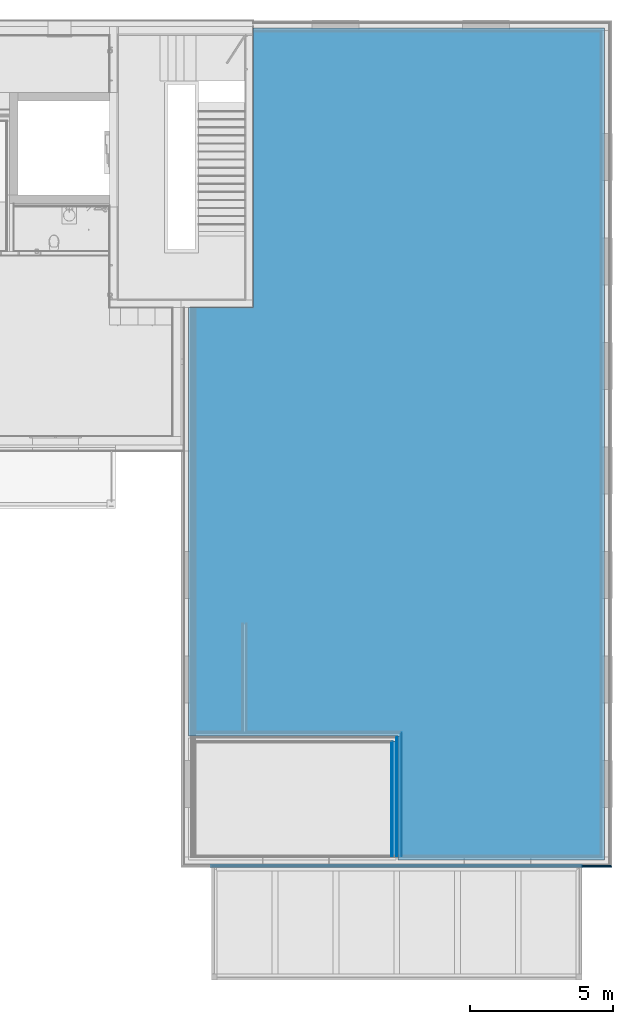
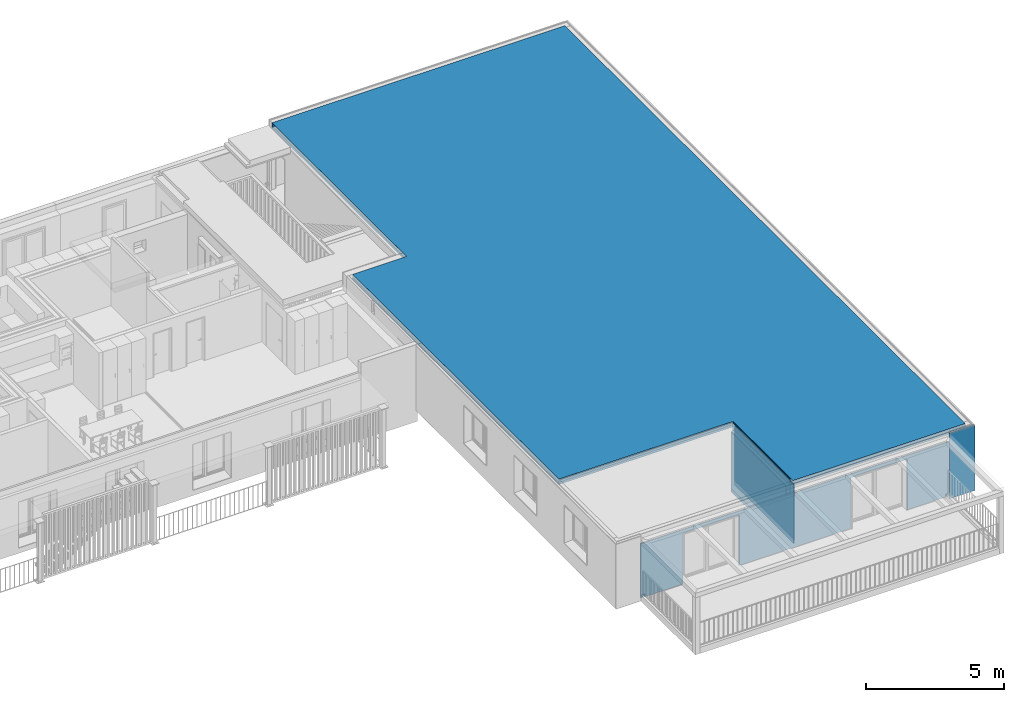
# One storey, part 15 of 34: 18 building element parts, 2 openings, 5 elements without a shape of their own.
"""IFC4 building model written with IfcOpenShell, lengths in millimetres."""

from ifc_helpers import new_model, entity, si_unit, converted_unit, derived_unit, direction, frame, origin_with_axes, place, context, subcontext, project, spatial, polygons, material, type_object, element, aggregate, save


model = new_model("IFC4")

# Units and contexts
model_context = context("Model", 3, precision=0.01, world=origin_with_axes(), true_north=direction((0.0, 1.0)))
body_context = subcontext(model_context, "Body", "Model", "MODEL_VIEW")
ifc_project = project(units=[si_unit("LENGTHUNIT", "METRE", prefix="MILLI"), si_unit("AREAUNIT", "SQUARE_METRE"), si_unit("VOLUMEUNIT", "CUBIC_METRE"), converted_unit("PLANEANGLEUNIT", "DEGREE", entity("IfcPlaneAngleMeasure", 0.0174532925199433), si_unit("PLANEANGLEUNIT", "RADIAN"), dimensions=[0, 0, 0, 0, 0, 0, 0]), converted_unit("TIMEUNIT", "Year", entity("IfcTimeMeasure", 31557600.0), si_unit("TIMEUNIT", "SECOND"), dimensions=[0, 0, 1, 0, 0, 0, 0]), si_unit("MASSUNIT", "GRAM", prefix="KILO"), si_unit("THERMODYNAMICTEMPERATUREUNIT", "DEGREE_CELSIUS"), si_unit("LUMINOUSINTENSITYUNIT", "LUMEN"), si_unit("ENERGYUNIT", "JOULE", prefix="MEGA"), derived_unit("THERMALCONDUCTANCEUNIT", [(si_unit("POWERUNIT", "WATT"), 1), (si_unit("LENGTHUNIT", "METRE"), -1), (si_unit("THERMODYNAMICTEMPERATUREUNIT", "KELVIN"), -1)]), derived_unit("SPECIFICHEATCAPACITYUNIT", [(si_unit("ENERGYUNIT", "JOULE"), 1), (si_unit("MASSUNIT", "GRAM", prefix="KILO"), -1), (si_unit("THERMODYNAMICTEMPERATUREUNIT", "KELVIN"), -1)]), derived_unit("MASSDENSITYUNIT", [(si_unit("MASSUNIT", "GRAM", prefix="KILO"), 1), (si_unit("VOLUMEUNIT", "CUBIC_METRE"), -1)])], contexts=[model_context])

# Site, building, storey
site_placement = place(None, origin_with_axes())
site = spatial("IfcSite", under=ifc_project, at=site_placement, Name="Gelände", CompositionType="ELEMENT")
building_placement = place(site_placement, origin_with_axes())
building = spatial("IfcBuilding", under=site, at=building_placement, Name="Gebäude", CompositionType="ELEMENT")
storey_placement = place(building_placement, frame((0.0, 0.0, 5799.999999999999), z_axis=(0.0, 0.0, 1.0), x_axis=(1.0, 0.0, 0.0)))
storey = spatial("IfcBuildingStorey", under=building, at=storey_placement, Name="2.OG", CompositionType="ELEMENT", Elevation=5800.0)

# Wall, building element parts
wall_type = type_object("IfcWallType", Name="Trennwand Typ 01 186", PredefinedType="NOTDEFINED")
wall_1_placement = place(storey_placement, frame((25242.99744456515, 8826.597281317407, 500.0), z_axis=(0.0, 0.0, 1.0), x_axis=(0.0, 1.0, 0.0)))
wall_1 = element("IfcWall", 1, at=wall_1_placement, inside=storey, type_object=wall_type, Name="Wand-014", PredefinedType="NOTDEFINED")
ifc_material_1 = material(Name="Gipskartonplatte GKP")
building_element_part_1_placement = place(wall_1_placement, origin_with_axes())
building_element_part_1 = element("IfcBuildingElementPart", 2, at=building_element_part_1_placement, material=ifc_material_1, Name="Gipskartonplatte GKP", PredefinedType="NOTDEFINED", context=body_context, shape_type="Tessellation", body=[
    polygons([(3972.000000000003, -10.00000000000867, 2643.999948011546), (3972.000000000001, -28.0000000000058, 2643.999948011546), (3972.000000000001, -28.0000000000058, 0.0), (3972.000000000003, -10.00000000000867, 0.0), (0.0, -27.99999999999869, 2643.999948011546), (0.0, -10.00000000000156, 2643.999948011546), (0.0, -27.99999999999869, 0.0), (0.0, -10.00000000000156, 0.0)], [[[1, 2, 3, 4]], [[5, 2, 1, 6]], [[2, 5, 7, 3]], [[4, 3, 7, 8]], [[6, 1, 4, 8]], [[5, 6, 8, 7]]], closed=True),
])
ifc_material_2 = material(Name="Kalkzementputz Aussen")
building_element_part_2_placement = place(wall_1_placement, origin_with_axes())
building_element_part_2 = element("IfcBuildingElementPart", 3, at=building_element_part_2_placement, material=ifc_material_2, Name="Kalkzementputz Aussen", PredefinedType="NOTDEFINED", context=body_context, shape_type="Tessellation", body=[
    polygons([(3962.000000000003, 0.0, 2643.999948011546), (3962.000000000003, -10.00000000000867, 2643.999948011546), (3962.000000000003, -10.00000000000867, 150.0000000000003), (3962.000000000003, 0.0, 150.0000000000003), (0.0, -10.00000000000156, 2643.999948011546), (0.0, 0.0, 2643.999948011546), (0.0, -10.00000000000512, 150.0000000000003), (0.0, 0.0, 150.0000000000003)], [[[1, 2, 3, 4]], [[5, 2, 1, 6]], [[2, 5, 7, 3]], [[4, 3, 7, 8]], [[6, 1, 4, 8]], [[5, 6, 8, 7]]], closed=True),
])
ifc_material_3 = material(Name="Gipsfaserplatte GFP")
building_element_part_3_placement = place(wall_1_placement, origin_with_axes())
building_element_part_3 = element("IfcBuildingElementPart", 4, at=building_element_part_3_placement, material=ifc_material_3, Name="Gipsfaserplatte GFP", PredefinedType="NOTDEFINED", context=body_context, shape_type="Tessellation", body=[
    polygons([(3990.000000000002, -28.0000000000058, 2643.999948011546), (3990.000000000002, -46.00000000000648, 2643.999948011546), (3990.000000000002, -46.00000000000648, 0.0), (3990.000000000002, -28.0000000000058, 0.0), (0.0, -45.99999999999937, 2643.999948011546), (0.0, -27.99999999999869, 2643.999948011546), (0.0, -45.99999999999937, 0.0), (0.0, -27.99999999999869, 0.0)], [[[1, 2, 3, 4]], [[5, 2, 1, 6]], [[2, 5, 7, 3]], [[4, 3, 7, 8]], [[6, 1, 4, 8]], [[5, 6, 8, 7]]], closed=True),
])
ifc_material_4 = material(Name="Ständer Konstruktion gedämmt")
building_element_part_4_placement = place(wall_1_placement, origin_with_axes())
building_element_part_4 = element("IfcBuildingElementPart", 5, at=building_element_part_4_placement, material=ifc_material_4, Name="Ständer Konstruktion gedämmt", PredefinedType="NOTDEFINED", context=body_context, shape_type="Tessellation", body=[
    polygons([(4008.000000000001, -46.00000000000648, 2643.999948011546), (4008.000000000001, -165.9999999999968, 2643.999948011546), (4008.000000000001, -166.0000000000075, 0.0), (4008.000000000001, -46.00000000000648, 0.0), (0.0, -165.9999999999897, 2643.999948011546), (0.0, -45.99999999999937, 2643.999948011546), (0.0, -166.0000000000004, 0.0), (0.0, -45.99999999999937, 0.0)], [[[1, 2, 3, 4]], [[5, 2, 1, 6]], [[2, 5, 7, 3]], [[4, 3, 7, 8]], [[6, 1, 4, 8]], [[5, 6, 8, 7]]], closed=True),
])
ifc_material_5 = material(Name="Dämmung Innen")
building_element_part_5_placement = place(wall_1_placement, origin_with_axes())
building_element_part_5 = element("IfcBuildingElementPart", 6, at=building_element_part_5_placement, material=ifc_material_5, Name="Dämmung Innen", PredefinedType="NOTDEFINED", context=body_context, shape_type="Tessellation", body=[
    polygons([(0.0, -185.9999999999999, 150.0000000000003), (4128.000000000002, -186.0000000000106, 150.0000000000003), (4128.000000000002, -186.0000000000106, 2900.0), (0.0, -185.9999999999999, 2900.0), (4128.000000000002, -166.000000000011, 150.0000000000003), (0.0, -166.0000000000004, 150.0000000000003), (4128.000000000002, -166.000000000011, 2900.0), (0.0, -166.0000000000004, 2900.0)], [[[1, 2, 3, 4]], [[5, 2, 1, 6]], [[2, 5, 7, 3]], [[3, 7, 8, 4]], [[6, 1, 4, 8]], [[5, 6, 8, 7]]], closed=True),
])
aggregate(wall_1, [building_element_part_1, building_element_part_2, building_element_part_3, building_element_part_4, building_element_part_5])

# Curtain wall, building element parts
curtain_wall_type = type_object("IfcCurtainWallType", Name="Fassade Typ 02 - Vertikale Schalung 71", PredefinedType="NOTDEFINED")
curtain_wall_1_placement = place(storey_placement, frame((32928.99744477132, 8447.597281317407, 500.0000000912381), z_axis=(0.0, 0.0, 1.0), x_axis=(-1.0, 0.0, 0.0)))
curtain_wall_1 = element("IfcCurtainWall", 7, at=curtain_wall_1_placement, inside=storey, type_object=curtain_wall_type, Name="Wand-014", PredefinedType="NOTDEFINED")
ifc_material_6 = material(Name="Lattenrost horizontal")
building_element_part_6_placement = place(curtain_wall_1_placement, origin_with_axes())
building_element_part_6 = element("IfcBuildingElementPart", 8, at=building_element_part_6_placement, material=ifc_material_6, Name="Lattenrost horizontal", PredefinedType="NOTDEFINED", context=body_context, shape_type="Tessellation", body=[
    polygons([(46.00000163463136, -46.0000000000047, 7.21799754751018), (21.0000000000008, -45.99999999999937, 4.750067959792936), (21.0000000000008, -45.99999999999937, 0.0), (1046.000025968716, -45.99999999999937, 0.0), (1046.000025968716, -45.99999999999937, 7.217997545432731), (21.00000081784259, -20.999999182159, 4.750068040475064), (21.0000000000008, -21.0000000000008, 0.0), (1046.000025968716, -21.0000000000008, 0.0), (1046.000025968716, -21.0000000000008, 4.75006811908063)], [[[1, 2, 3, 4, 5]], [[6, 2, 1]], [[2, 6, 7, 3]], [[7, 8, 4, 3]], [[9, 5, 4, 8]], [[6, 1, 5, 9]], [[6, 9, 8, 7]]], closed=True),
    polygons([(21.00000081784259, -20.999999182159, 7.665565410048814), (21.0000000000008, -45.99999999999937, 7.665565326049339), (21.0000000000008, -45.99999999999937, 2899.99999990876), (21.0000000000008, -20.99999999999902, 2899.99999990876), (46.00000163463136, -46.00000000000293, 10.23497077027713), (1046.000025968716, -45.99999999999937, 10.23497076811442), (1046.000025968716, -45.99999999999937, 2899.99999990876), (1046.000025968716, -20.99999999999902, 2899.99999990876), (1046.000025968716, -21.0000000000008, 7.665565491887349)], [[[1, 2, 3, 4]], [[5, 2, 1]], [[2, 5, 6, 7, 3]], [[3, 7, 8, 4]], [[9, 1, 4, 8]], [[5, 1, 9, 6]], [[6, 9, 8, 7]]], closed=True),
])
ifc_material_7 = material(Name="Falzschalung vertikal")
building_element_part_7_placement = place(curtain_wall_1_placement, origin_with_axes())
building_element_part_7 = element("IfcBuildingElementPart", 9, at=building_element_part_7_placement, material=ifc_material_7, Name="Falzschalung vertikal", PredefinedType="NOTDEFINED", context=body_context, shape_type="Tessellation", body=[
    polygons([(21.00000163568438, -21.00000000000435, 4.750068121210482), (0.0, -21.0000000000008, 2.677007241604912), (0.0, -21.0000000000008, 0.0), (1046.000025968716, -21.0000000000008, 0.0), (1046.000025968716, -21.0000000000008, 4.75006811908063), (8.182823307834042e-07, 8.182823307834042e-07, 2.677007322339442), (0.0, 0.0, 0.0), (1046.000025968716, 0.0, 0.0), (1046.000025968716, 0.0, 2.677007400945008)], [[[1, 2, 3, 4, 5]], [[6, 2, 1]], [[2, 6, 7, 3]], [[7, 8, 4, 3]], [[9, 5, 4, 8]], [[6, 1, 5, 9]], [[6, 9, 8, 7]]], closed=True),
    polygons([(8.182823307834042e-07, 8.182841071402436e-07, 5.507264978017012), (0.0, -21.0000000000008, 5.507264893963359), (0.0, -20.99999999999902, 2899.99999990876), (0.0, 0.0, 2899.99999990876), (21.00000163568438, -21.00000000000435, 7.665565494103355), (1046.000025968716, -21.0000000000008, 7.665565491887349), (1046.000025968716, -20.99999999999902, 2899.99999990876), (1046.000025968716, 0.0, 2899.99999990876), (1046.000025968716, 0.0, 5.507265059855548)], [[[1, 2, 3, 4]], [[5, 2, 1]], [[2, 5, 6, 7, 3]], [[3, 7, 8, 4]], [[9, 1, 4, 8]], [[5, 1, 9, 6]], [[6, 9, 8, 7]]], closed=True),
])
ifc_material_8 = material(Name="Lattenrost vertikal")
building_element_part_8_placement = place(curtain_wall_1_placement, origin_with_axes())
building_element_part_8 = element("IfcBuildingElementPart", 10, at=building_element_part_8_placement, material=ifc_material_8, Name="Lattenrost vertikal", PredefinedType="NOTDEFINED", context=body_context, shape_type="Tessellation", body=[
    polygons([(71.0000014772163, -70.99999984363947, 9.685926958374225), (45.99999999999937, -70.99999999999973, 7.217997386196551), (45.99999999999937, -70.99999999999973, 0.0), (1046.000025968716, -70.99999999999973, 0.0), (1046.000025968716, -70.99999986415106, 9.685926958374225), (46.00000081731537, -45.99999918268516, 7.217997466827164), (45.99999999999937, -45.99999999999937, 0.0), (1046.000025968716, -45.99999999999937, 0.0), (1046.000025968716, -45.99999999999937, 7.217997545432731)], [[[1, 2, 3, 4, 5]], [[6, 2, 1]], [[2, 6, 7, 3]], [[7, 8, 4, 3]], [[9, 5, 4, 8]], [[6, 1, 5, 9]], [[6, 9, 8, 7]]], closed=True),
    polygons([(46.00000081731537, -45.99999918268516, 10.23497068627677), (45.99999999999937, -70.99999999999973, 10.23497060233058), (45.99999999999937, -70.99999999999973, 2899.99999990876), (45.99999999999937, -45.99999999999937, 2899.99999990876), (68.30000031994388, -70.99999999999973, 12.52688014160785), (68.30000032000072, -68.2999986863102, 12.52688014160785), (68.30000031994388, -70.99999999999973, 42.69563016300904), (71.0000014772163, -70.99999984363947, 42.69563016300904), (1046.000025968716, -70.99999986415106, 42.69563016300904), (1046.000025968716, -70.99999999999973, 2899.99999990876), (1046.000025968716, -45.99999999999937, 2899.99999990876), (1046.000025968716, -45.99999999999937, 10.23497076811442), (1046.000025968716, -68.29999870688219, 12.52688014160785), (68.30000032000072, -68.2999986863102, 42.69563016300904), (1046.000025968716, -68.29999870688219, 42.69563016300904)], [[[1, 2, 3, 4]], [[5, 2, 1, 6]], [[7, 8, 9, 10, 3, 2, 5]], [[3, 10, 11, 4]], [[12, 1, 4, 11]], [[6, 1, 12, 13]], [[7, 5, 6, 14]], [[8, 7, 14, 15, 9]], [[13, 12, 11, 10, 9, 15]], [[14, 6, 13, 15]]], closed=True),
])
aggregate(curtain_wall_1, [building_element_part_6, building_element_part_7, building_element_part_8])

# Curtain wall, openings, building element parts
curtain_wall_2_placement = place(storey_placement, frame((31882.9974188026, 8447.597281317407, 620.0000000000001), z_axis=(0.0, 0.0, 1.0), x_axis=(-1.0, 0.0, 0.0)))
curtain_wall_2 = element("IfcCurtainWall", 11, at=curtain_wall_2_placement, inside=storey, type_object=curtain_wall_type, Name="Wand-014", PredefinedType="NOTDEFINED")
opening_1_placement = place(curtain_wall_2_placement, frame((9967.33330736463, 0.0, 0.0), z_axis=(0.0, 0.0, 1.0), x_axis=(1.0, 0.0, 0.0)))
element("IfcOpeningElement", 12, at=opening_1_placement, cuts=curtain_wall_2, Name="Fenster-004", context=body_context, identifier="Reference", shape_type="Tessellation", body=[
    polygons([(1166.000000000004, 1.000000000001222, 2241.0), (1166.000000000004, 1.000000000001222, 0.0), (-1166.000000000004, 1.000000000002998, 0.0), (-1166.000000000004, 1.000000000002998, 2241.0), (1166.000000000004, -72.00000000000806, 2241.0), (1166.000000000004, -72.00000000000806, 0.0), (-1166.000000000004, -72.00000000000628, 0.0), (-1166.000000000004, -72.00000000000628, 2241.0)], [[[1, 2, 3, 4]], [[5, 6, 2, 1]], [[6, 7, 3, 2]], [[7, 8, 4, 3]], [[8, 5, 1, 4]], [[7, 6, 5, 8]]], closed=True),
])
opening_2_placement = place(curtain_wall_2_placement, frame((2940.666641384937, 0.0, 0.0), z_axis=(0.0, 0.0, 1.0), x_axis=(1.0, 0.0, 0.0)))
element("IfcOpeningElement", 13, at=opening_2_placement, cuts=curtain_wall_2, Name="Fenster-004", context=body_context, identifier="Reference", shape_type="Tessellation", body=[
    polygons([(1166.0, 1.000000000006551, 2241.0), (1166.0, 1.000000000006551, 0.0), (-1166.0, 1.000000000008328, 0.0), (-1166.0, 1.000000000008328, 2241.0), (1166.0, -72.00000000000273, 2241.0), (1166.0, -72.00000000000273, 0.0), (-1166.0, -72.00000000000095, 0.0), (-1166.0, -72.00000000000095, 2241.0)], [[[1, 2, 3, 4]], [[5, 6, 2, 1]], [[6, 7, 3, 2]], [[7, 8, 4, 3]], [[8, 5, 1, 4]], [[7, 6, 5, 8]]], closed=True),
])
building_element_part_9_placement = place(curtain_wall_2_placement, origin_with_axes())
building_element_part_9 = element("IfcBuildingElementPart", 14, at=building_element_part_9_placement, material=ifc_material_6, Name="Lattenrost horizontal", PredefinedType="NOTDEFINED", context=body_context, shape_type="Tessellation", body=[
    polygons([(4106.666641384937, -46.00000000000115, 2241.0), (4106.666641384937, -46.00000000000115, 0.09999999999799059), (4106.666641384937, -45.99999999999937, 0.0), (8801.33330736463, -46.00000000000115, 0.0), (8801.333307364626, -46.00000000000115, 0.09999999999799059), (8801.333307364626, -46.00000000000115, 2241.0), (11133.33330736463, -46.00000000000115, 2241.0), (11133.33330736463, -46.00000000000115, 0.09999999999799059), (11133.33330736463, -46.00000000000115, 0.0), (12744.74416868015, -46.00000000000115, 0.0), (12744.74416868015, -46.00000000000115, 127.7534740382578), (12794.2546957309, -46.00000000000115, 132.641013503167), (12794.2546957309, -46.00000000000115, 0.0), (12907.99994874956, -46.00000000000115, 0.0), (12907.99994874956, -46.00000000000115, 2399.999895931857), (0.0, -45.99999999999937, 2399.999895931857), (0.0, -45.99999999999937, 0.0), (113.7452535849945, -45.99999999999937, 0.0), (113.7452535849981, -46.00000000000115, 132.6410134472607), (163.255780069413, -45.99999999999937, 127.7534740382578), (163.255780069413, -45.99999999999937, 0.0), (1774.666641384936, -45.99999999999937, 0.0), (1774.666641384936, -45.99999999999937, 0.09999999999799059), (1774.666641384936, -46.00000000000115, 2241.0), (165.4522595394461, -45.99999999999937, 129.5463650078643), (113.7452535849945, -46.00000000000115, 134.6507349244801), (113.7452535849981, -46.00000000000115, 136.8557791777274), (167.5570486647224, -45.99999999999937, 131.3114366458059), (167.5570085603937, -45.99999999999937, 99.99999966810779), (165.4522595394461, -45.99999999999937, 99.99999966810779), (12742.54768921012, -46.00000000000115, 99.99999966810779), (12740.44294018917, -46.00000000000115, 99.99999966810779), (12740.44290008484, -46.00000000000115, 131.3114366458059), (12794.2546957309, -46.00000000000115, 136.8557792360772), (12794.2546957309, -46.00000000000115, 134.6507349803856), (12742.54768921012, -46.00000000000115, 129.5463650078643), (4106.666641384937, -21.0000000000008, 2241.0), (4106.666641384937, -21.0000000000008, 0.09999999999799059), (4106.666641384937, -21.0000000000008, 0.0), (8801.33330736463, -21.0000000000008, 0.0), (8801.333307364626, -21.0000000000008, 0.09999999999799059), (8801.333307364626, -21.0000000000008, 2241.0), (11133.33330736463, -21.0000000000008, 2241.0), (11133.33330736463, -21.0000000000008, 0.09999999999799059), (11133.33330736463, -21.0000000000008, 0.0), (12744.74416868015, -21.0000000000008, 0.0), (12744.74416868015, -21.0000000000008, 127.7534740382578), (12848.06649137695, -21.0000000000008, 137.9531620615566), (12848.06649137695, -21.0000000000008, 0.0), (12907.99994874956, -21.0000000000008, 0.0), (12907.99994874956, -21.0000000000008, 2399.999895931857), (0.0, -20.99999999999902, 2399.999895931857), (0.0, -21.0000000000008, 0.0), (59.93345794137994, -21.0000000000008, 0.0), (59.93345794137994, -21.0000000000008, 137.9531620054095), (163.255780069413, -21.0000000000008, 127.7534740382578), (163.255780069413, -21.0000000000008, 0.0), (1774.666641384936, -21.0000000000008, 0.0), (1774.666641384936, -21.0000000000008, 0.09999999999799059), (1774.666641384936, -21.0000000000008, 2241.0), (165.4522595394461, -21.0000000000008, 129.5463650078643), (59.93345794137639, -21.0000000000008, 139.9628837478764), (59.93345794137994, -21.0000000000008, 142.4001217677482), (167.5570486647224, -21.0000000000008, 131.3114366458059), (167.5570085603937, -21.0000000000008, 99.99999966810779), (165.4522595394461, -21.0000000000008, 99.99999966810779), (12742.54768921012, -21.0000000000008, 99.99999966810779), (12740.44294018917, -21.0000000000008, 99.99999966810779), (12740.44290008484, -21.0000000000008, 131.3114366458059), (12848.06649137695, -21.0000000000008, 142.4001218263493), (12848.06649137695, -21.0000000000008, 139.9628838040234), (12742.54768921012, -21.0000000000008, 129.5463650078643)], [[[1, 2, 3, 4, 5, 6, 7, 8, 9, 10, 11, 12, 13, 14, 15, 16, 17, 18, 19, 20, 21, 22, 23, 24], [25, 26, 27, 28, 29, 30], [31, 32, 33, 34, 35, 36]], [[2, 1, 37, 38]], [[2, 38, 39, 3]], [[4, 3, 39, 40]], [[5, 4, 40, 41]], [[5, 41, 42, 6]], [[6, 42, 43, 7]], [[7, 43, 44, 8]], [[44, 45, 9, 8]], [[9, 45, 46, 10]], [[46, 47, 11, 10]], [[47, 48, 12, 11]], [[48, 49, 13, 12]], [[50, 14, 13, 49]], [[15, 14, 50, 51]], [[15, 51, 52, 16]], [[16, 52, 53, 17]], [[17, 53, 54, 18]], [[19, 18, 54, 55]], [[20, 19, 55, 56]], [[56, 57, 21, 20]], [[58, 22, 21, 57]], [[59, 23, 22, 58]], [[24, 23, 59, 60]], [[1, 24, 60, 37]], [[26, 25, 61, 62]], [[27, 26, 62, 63]], [[28, 27, 63, 64]], [[64, 65, 29, 28]], [[65, 66, 30, 29]], [[66, 61, 25, 30]], [[67, 68, 32, 31]], [[68, 69, 33, 32]], [[69, 70, 34, 33]], [[70, 71, 35, 34]], [[71, 72, 36, 35]], [[72, 67, 31, 36]], [[60, 59, 58, 57, 56, 55, 54, 53, 52, 51, 50, 49, 48, 47, 46, 45, 44, 43, 42, 41, 40, 39, 38, 37], [65, 64, 63, 62, 61, 66], [71, 70, 69, 68, 67, 72]]], closed=True),
])
building_element_part_10_placement = place(curtain_wall_2_placement, origin_with_axes())
building_element_part_10 = element("IfcBuildingElementPart", 15, at=building_element_part_10_placement, material=ifc_material_8, Name="Lattenrost vertikal", PredefinedType="NOTDEFINED", context=body_context, shape_type="Tessellation", body=[
    polygons([(4106.666641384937, -70.99999999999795, 2241.0), (4106.666641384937, -70.99999999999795, 0.09999999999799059), (4106.666641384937, -70.99999999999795, 0.0), (8801.33330736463, -70.99999999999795, 0.0), (8801.333307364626, -70.99999999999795, 0.09999999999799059), (8801.333307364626, -70.99999999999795, 2241.0), (11133.33330736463, -70.99999999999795, 2241.0), (11133.33330736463, -71.0000000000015, 0.09999999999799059), (11133.33330736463, -71.0000000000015, 0.0), (12907.99994874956, -71.0000000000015, 0.0), (12907.99994874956, -71.0000000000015, 2399.999895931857), (0.0, -70.99999999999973, 2399.999895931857), (0.0, -70.99999999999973, 0.0), (1774.666641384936, -70.99999999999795, 0.0), (1774.666641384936, -70.99999999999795, 0.09999999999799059), (1774.666641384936, -70.99999999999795, 2241.0), (4106.666641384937, -46.00000000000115, 2241.0), (4106.666641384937, -46.00000000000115, 0.09999999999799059), (4106.666641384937, -45.99999999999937, 0.0), (8801.33330736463, -46.00000000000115, 0.0), (8801.333307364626, -46.00000000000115, 0.09999999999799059), (8801.333307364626, -46.00000000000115, 2241.0), (11133.33330736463, -46.00000000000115, 2241.0), (11133.33330736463, -46.00000000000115, 0.09999999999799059), (11133.33330736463, -46.00000000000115, 0.0), (12794.2546957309, -46.00000000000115, 0.0), (12907.99994874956, -46.00000000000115, 0.0), (12744.74416868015, -46.00000000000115, 0.0), (12744.74416868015, -69.00170736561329, 0.0), (12907.99994874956, -46.00000000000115, 2399.999895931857), (0.0, -45.99999999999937, 2399.999895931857), (0.0, -45.99999999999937, 0.0), (163.255780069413, -45.99999999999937, 0.0), (1774.666641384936, -45.99999999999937, 0.0), (113.7452535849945, -45.99999999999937, 0.0), (163.255780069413, -69.00170710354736, 0.0), (1774.666641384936, -45.99999999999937, 0.09999999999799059), (1774.666641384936, -46.00000000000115, 2241.0), (163.255780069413, -45.99999999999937, 127.7534740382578), (113.7452535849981, -46.00000000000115, 132.6410134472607), (12794.2546957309, -46.00000000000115, 132.641013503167), (12744.74416868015, -46.00000000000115, 127.7534740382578), (167.5570085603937, -45.99999999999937, 99.99999966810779), (167.5570486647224, -45.99999999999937, 131.3114366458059), (113.7452535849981, -46.00000000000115, 136.8557791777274), (113.7452535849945, -46.00000000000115, 134.6507349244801), (165.4522595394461, -45.99999999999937, 129.5463650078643), (165.4522595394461, -45.99999999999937, 99.99999966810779), (12794.2546957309, -46.00000000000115, 134.6507349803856), (12794.2546957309, -46.00000000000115, 136.8557792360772), (12740.44290008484, -46.00000000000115, 131.3114366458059), (12740.44294018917, -46.00000000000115, 99.99999966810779), (12742.54768921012, -46.00000000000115, 99.99999966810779), (12742.54768921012, -46.00000000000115, 129.5463650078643), (12744.74416868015, -69.00170736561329, 127.7534740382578), (163.255780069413, -69.00170710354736, 127.7534740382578), (167.5570085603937, -70.99998110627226, 99.99999966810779), (167.5570486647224, -70.99999973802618, 131.3114366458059), (165.4522595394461, -70.02215226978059, 99.99999966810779), (165.4522595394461, -70.02215226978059, 129.5463650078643), (12742.54768921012, -70.02215253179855, 129.5463650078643), (12742.54768921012, -70.02215253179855, 99.99999966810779), (12740.44294018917, -70.99998136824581, 99.99999966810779), (12740.44290008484, -71.0000000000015, 131.3114366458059)], [[[1, 2, 3, 4, 5, 6, 7, 8, 9, 10, 11, 12, 13, 14, 15, 16]], [[2, 1, 17, 18]], [[2, 18, 19, 3]], [[4, 3, 19, 20]], [[5, 4, 20, 21]], [[5, 21, 22, 6]], [[6, 22, 23, 7]], [[7, 23, 24, 8]], [[24, 25, 9, 8]], [[26, 27, 10, 9, 25, 28, 29]], [[11, 10, 27, 30]], [[11, 30, 31, 12]], [[12, 31, 32, 13]], [[33, 34, 14, 13, 32, 35, 36]], [[37, 15, 14, 34]], [[16, 15, 37, 38]], [[1, 16, 38, 17]], [[38, 37, 34, 33, 39, 40, 35, 32, 31, 30, 27, 26, 41, 42, 28, 25, 24, 23, 22, 21, 20, 19, 18, 17], [43, 44, 45, 46, 47, 48], [49, 50, 51, 52, 53, 54]], [[42, 55, 29, 28]], [[55, 41, 26, 29]], [[56, 36, 35, 40]], [[56, 39, 33, 36]], [[40, 39, 56]], [[42, 41, 55]], [[57, 58, 44, 43]], [[45, 44, 58]], [[46, 45, 58, 57, 59, 60]], [[47, 46, 60]], [[60, 59, 48, 47]], [[59, 57, 43, 48]], [[50, 49, 61, 62, 63, 64]], [[51, 50, 64]], [[64, 63, 52, 51]], [[63, 62, 53, 52]], [[62, 61, 54, 53]], [[49, 54, 61]]], closed=True),
])
aggregate(curtain_wall_2, [building_element_part_9, building_element_part_10])

# Slab, building element parts
slab_type = type_object("IfcSlabType", Name="Geschossdecke Typ 01 256", PredefinedType="NOTDEFINED")
slab_placement = place(storey_placement, frame((32679.99744477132, 8696.597281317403, 3399.999948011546), z_axis=(0.0, 0.0, 1.0), x_axis=(1.0, 0.0, 0.0)))
slab = element("IfcSlab", 16, at=slab_placement, inside=storey, type_object=slab_type, Name="Deckennr.-073", PredefinedType="NOTDEFINED")
ifc_material_9 = material(Name="Balken Konstruktion ungedämmt")
building_element_part_11_placement = place(slab_placement, origin_with_axes())
building_element_part_11 = element("IfcBuildingElementPart", 17, at=building_element_part_11_placement, material=ifc_material_9, Name="Balken Konstruktion ungedämmt", PredefinedType="NOTDEFINED", context=body_context, shape_type="Tessellation", body=[
    polygons([(0.0, 0.0, -137.9999999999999), (0.0, 29002.00000000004, -137.9999999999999), (0.0, 29002.00000000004, -18.00000000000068), (0.0, 0.0, -18.00000000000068), (-7211.000000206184, 0.0, -137.9999999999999), (-7211.000000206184, 4318.000000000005, -137.9999999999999), (-14502.00000000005, 4318.000000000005, -137.9999999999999), (-14502.00000000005, 19251.00000000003, -137.9999999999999), (-12251.00000000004, 19251.00000000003, -137.9999999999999), (-12251.00000000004, 29002.00000000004, -137.9999999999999), (-12251.00000000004, 29002.00000000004, -18.00000000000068), (-7211.000000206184, 0.0, -18.00000000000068), (-12251.00000000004, 19251.00000000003, -18.00000000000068), (-14502.00000000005, 19251.00000000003, -18.00000000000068), (-14502.00000000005, 4318.000000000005, -18.00000000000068), (-7211.000000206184, 4318.000000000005, -18.00000000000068)], [[[1, 2, 3, 4]], [[2, 1, 5, 6, 7, 8, 9, 10]], [[2, 10, 11, 3]], [[12, 4, 3, 11, 13, 14, 15, 16]], [[5, 1, 4, 12]], [[6, 5, 12, 16]], [[7, 6, 16, 15]], [[8, 7, 15, 14]], [[9, 8, 14, 13]], [[10, 9, 13, 11]]], closed=True),
])
ifc_material_10 = material(Name="Balken Konstruktion gedämmt")
building_element_part_12_placement = place(slab_placement, origin_with_axes())
building_element_part_12 = element("IfcBuildingElementPart", 18, at=building_element_part_12_placement, material=ifc_material_10, Name="Balken Konstruktion gedämmt", PredefinedType="NOTDEFINED", context=body_context, shape_type="Tessellation", body=[
    polygons([(0.0, 0.0, -237.9999999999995), (0.0, 29002.00000000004, -237.9999999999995), (0.0, 29002.00000000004, -137.9999999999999), (0.0, 0.0, -137.9999999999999), (-7211.000000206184, 0.0, -237.9999999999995), (-7211.000000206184, 4318.000000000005, -237.9999999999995), (-14502.00000000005, 4318.000000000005, -237.9999999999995), (-14502.00000000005, 19251.00000000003, -237.9999999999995), (-12251.00000000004, 19251.00000000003, -237.9999999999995), (-12251.00000000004, 29002.00000000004, -237.9999999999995), (-12251.00000000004, 29002.00000000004, -137.9999999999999), (-7211.000000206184, 0.0, -137.9999999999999), (-12251.00000000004, 19251.00000000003, -137.9999999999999), (-14502.00000000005, 19251.00000000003, -137.9999999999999), (-14502.00000000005, 4318.000000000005, -137.9999999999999), (-7211.000000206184, 4318.000000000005, -137.9999999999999)], [[[1, 2, 3, 4]], [[2, 1, 5, 6, 7, 8, 9, 10]], [[2, 10, 11, 3]], [[12, 4, 3, 11, 13, 14, 15, 16]], [[5, 1, 4, 12]], [[6, 5, 12, 16]], [[7, 6, 16, 15]], [[8, 7, 15, 14]], [[9, 8, 14, 13]], [[10, 9, 13, 11]]], closed=True),
])
ifc_material_11 = material(Name="Grobspanplatte-OSB")
building_element_part_13_placement = place(slab_placement, origin_with_axes())
building_element_part_13 = element("IfcBuildingElementPart", 19, at=building_element_part_13_placement, material=ifc_material_11, Name="Grobspanplatte-OSB", PredefinedType="NOTDEFINED", context=body_context, shape_type="Tessellation", body=[
    polygons([(0.0, 0.0, -18.00000000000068), (0.0, 29002.00000000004, -18.00000000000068), (0.0, 29002.00000000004, 0.0), (0.0, 0.0, 0.0), (-7211.000000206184, 0.0, -18.00000000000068), (-7211.000000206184, 4318.000000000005, -18.00000000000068), (-14502.00000000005, 4318.000000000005, -18.00000000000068), (-14502.00000000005, 19251.00000000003, -18.00000000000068), (-12251.00000000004, 19251.00000000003, -18.00000000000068), (-12251.00000000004, 29002.00000000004, -18.00000000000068), (-12251.00000000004, 29002.00000000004, 0.0), (-7211.000000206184, 0.0, 0.0), (-12251.00000000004, 19251.00000000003, 0.0), (-14502.00000000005, 19251.00000000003, 0.0), (-14502.00000000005, 4318.000000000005, 0.0), (-7211.000000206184, 4318.000000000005, 0.0)], [[[1, 2, 3, 4]], [[2, 1, 5, 6, 7, 8, 9, 10]], [[2, 10, 11, 3]], [[12, 4, 3, 11, 13, 14, 15, 16]], [[5, 1, 4, 12]], [[6, 5, 12, 16]], [[7, 6, 16, 15]], [[8, 7, 15, 14]], [[9, 8, 14, 13]], [[10, 9, 13, 11]]], closed=True),
])
aggregate(slab, [building_element_part_11, building_element_part_12, building_element_part_13])

# Wall, building element parts
wall_2_placement = place(storey_placement, frame((25614.99744456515, 8826.597281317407, 500.0), z_axis=(0.0, 0.0, 1.0), x_axis=(0.0, 1.0, 0.0)))
wall_2 = element("IfcWall", 20, at=wall_2_placement, inside=storey, type_object=wall_type, Name="Wand-014", PredefinedType="NOTDEFINED")
building_element_part_14_placement = place(wall_2_placement, origin_with_axes())
building_element_part_14 = element("IfcBuildingElementPart", 21, at=building_element_part_14_placement, material=ifc_material_5, Name="Dämmung Innen", PredefinedType="NOTDEFINED", context=body_context, shape_type="Tessellation", body=[
    polygons([(0.0, 166.0000000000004, 150.0000000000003), (4148.000000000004, 165.9999999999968, 150.0000000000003), (4148.000000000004, 165.9999999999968, 2900.0), (0.0, 166.0000000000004, 2900.0), (4148.000000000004, 185.9999999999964, 150.0000000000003), (0.0, 185.9999999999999, 150.0000000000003), (4148.000000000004, 185.9999999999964, 2900.0), (0.0, 185.9999999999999, 2900.0)], [[[1, 2, 3, 4]], [[5, 2, 1, 6]], [[2, 5, 7, 3]], [[3, 7, 8, 4]], [[6, 1, 4, 8]], [[5, 6, 8, 7]]], closed=True),
])
building_element_part_15_placement = place(wall_2_placement, origin_with_axes())
building_element_part_15 = element("IfcBuildingElementPart", 22, at=building_element_part_15_placement, material=ifc_material_3, Name="Gipsfaserplatte GFP", PredefinedType="NOTDEFINED", context=body_context, shape_type="Tessellation", body=[
    polygons([(4288.000000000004, 45.99999999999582, 2643.999948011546), (4288.000000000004, 27.99999999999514, 2643.999948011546), (4288.000000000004, 27.99999999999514, 0.0), (4288.000000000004, 45.99999999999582, 0.0), (0.0, 27.99999999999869, 2643.999948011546), (0.0, 45.99999999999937, 2643.999948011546), (0.0, 27.99999999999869, 0.0), (0.0, 45.99999999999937, 0.0)], [[[1, 2, 3, 4]], [[5, 2, 1, 6]], [[2, 5, 7, 3]], [[4, 3, 7, 8]], [[6, 1, 4, 8]], [[5, 6, 8, 7]]], closed=True),
])
building_element_part_16_placement = place(wall_2_placement, origin_with_axes())
building_element_part_16 = element("IfcBuildingElementPart", 23, at=building_element_part_16_placement, material=ifc_material_1, Name="Gipskartonplatte GKP", PredefinedType="NOTDEFINED", context=body_context, shape_type="Tessellation", body=[
    polygons([(4306.000000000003, 27.99999999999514, 2578.999948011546), (4306.000000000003, 9.99999999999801, 2578.999948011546), (4306.000000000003, 9.99999999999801, 0.0), (4306.000000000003, 27.99999999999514, 0.0), (0.0, 10.00000000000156, 2578.999948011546), (0.0, 27.99999999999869, 2578.999948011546), (0.0, 10.00000000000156, 0.0), (0.0, 27.99999999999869, 0.0)], [[[1, 2, 3, 4]], [[5, 2, 1, 6]], [[2, 5, 7, 3]], [[4, 3, 7, 8]], [[6, 1, 4, 8]], [[5, 6, 8, 7]]], closed=True),
    polygons([(0.0, 10.00000000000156, 2603.999948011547), (4306.000000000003, 9.99999999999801, 2603.999948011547), (4306.000000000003, 9.99999999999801, 2643.999948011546), (0.0, 10.00000000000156, 2643.999948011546), (4306.000000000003, 27.99999999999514, 2603.999948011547), (0.0, 27.99999999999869, 2603.999948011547), (4306.000000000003, 27.99999999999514, 2643.999948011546), (0.0, 27.99999999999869, 2643.999948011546)], [[[1, 2, 3, 4]], [[5, 2, 1, 6]], [[2, 5, 7, 3]], [[4, 3, 7, 8]], [[6, 1, 4, 8]], [[5, 6, 8, 7]]], closed=True),
])
building_element_part_17_placement = place(wall_2_placement, origin_with_axes())
building_element_part_17 = element("IfcBuildingElementPart", 24, at=building_element_part_17_placement, material=ifc_material_4, Name="Ständer Konstruktion gedämmt", PredefinedType="NOTDEFINED", context=body_context, shape_type="Tessellation", body=[
    polygons([(4168.000000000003, 146.0000000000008, 2643.999948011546), (4168.000000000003, 45.99999999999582, 2643.999948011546), (4168.000000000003, 45.99999999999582, 0.0), (4168.000000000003, 165.9999999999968, 0.0), (4168.000000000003, 165.9999999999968, 2900.0), (4168.000000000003, 146.0000000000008, 2899.999948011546), (0.0, 45.99999999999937, 2643.999948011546), (0.0, 146.0000000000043, 2643.999948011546), (0.0, 45.99999999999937, 0.0), (0.0, 166.0000000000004, 0.0), (0.0, 166.0000000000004, 2900.0), (0.0, 146.0000000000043, 2899.999948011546)], [[[1, 2, 3, 4, 5, 6]], [[7, 2, 1, 8]], [[2, 7, 9, 3]], [[4, 3, 9, 10]], [[5, 4, 10, 11]], [[12, 6, 5, 11]], [[8, 1, 6, 12]], [[8, 12, 11, 10, 9, 7]]], closed=True),
])
building_element_part_18_placement = place(wall_2_placement, origin_with_axes())
building_element_part_18 = element("IfcBuildingElementPart", 25, at=building_element_part_18_placement, material=ifc_material_2, Name="Kalkzementputz Aussen", PredefinedType="NOTDEFINED", context=body_context, shape_type="Tessellation", body=[
    polygons([(4324.000000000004, 9.99999999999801, 2578.999948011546), (4324.000000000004, 0.0, 2578.999948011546), (4324.000000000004, 0.0, 150.0000000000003), (4324.000000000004, 9.99999999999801, 150.0000000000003), (0.0, 0.0, 2578.999948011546), (0.0, 10.00000000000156, 2578.999948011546), (0.0, 0.0, 150.0000000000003), (0.0, 10.00000000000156, 150.0000000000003)], [[[1, 2, 3, 4]], [[5, 2, 1, 6]], [[2, 5, 7, 3]], [[4, 3, 7, 8]], [[6, 1, 4, 8]], [[5, 6, 8, 7]]], closed=True),
])
aggregate(wall_2, [building_element_part_14, building_element_part_15, building_element_part_16, building_element_part_17, building_element_part_18])

save(model, "model.ifc")
